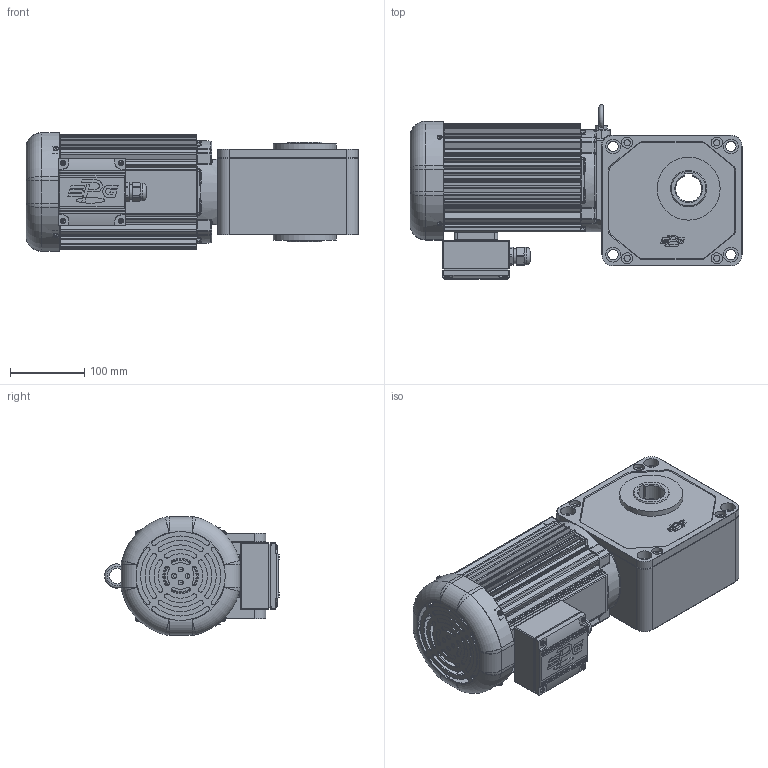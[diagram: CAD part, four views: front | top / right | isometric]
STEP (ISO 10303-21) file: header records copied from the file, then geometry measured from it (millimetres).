
FILE_DESCRIPTION(/* description */ (''),/* implementation_level */ '2;1');
FILE_NAME(/* name */ 'Z:\동력 3D 파일\PCH35_0.75kW_3D.stp',/* time_stamp */ '2021-11-09T09:52:03+09:00',/* author */ ('jaebok'),/* organization */ (''),/* preprocessor_version */ 'ST-DEVELOPER v18.1',/* originating_system */ 'Autodesk Inventor 2022',/* authorisation */ '');
FILE_SCHEMA (('AUTOMOTIVE_DESIGN { 1 0 10303 214 3 1 1 }'));
Products named in the file (1): 부품27
Bounding box: 448 x 235.3 x 160.4 mm (x, y, z)
Volume: 2972770.2 mm3; surface area: 788764 mm2
Topology: 1 solids, 26 shells, 2136 faces, 5465 edges, 3403 vertices
Faces by surface type: plane 876, cylinder 776, bspline 201, torus 176, cone 59, sphere 48
Full cylindrical faces by diameter (mm): 3.25 x1, 3.5 x4, 3.6 x4, 4 x22, 5 x13, 6 x4, 6.647 x1, 7 x13, 8 x5, 8.5 x4, 10 x1, 12.5 x1, 14 x4, 15 x5, 18 x1, 20 x14, 20.6 x1, 21 x1, 23.6 x1, 25 x1, 30 x1, 36 x1, 40 x1, 44 x1, 49 x2, 50 x2, 54.5 x1, 72 x2, 78 x2, 85 x2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
Entity records: 73264 total; most frequent: CARTESIAN_POINT 19514, DIRECTION 11066, ORIENTED_EDGE 10818, EDGE_CURVE 5409, AXIS2_PLACEMENT_3D 4276, VERTEX_POINT 3403, LINE 2514, VECTOR 2514
